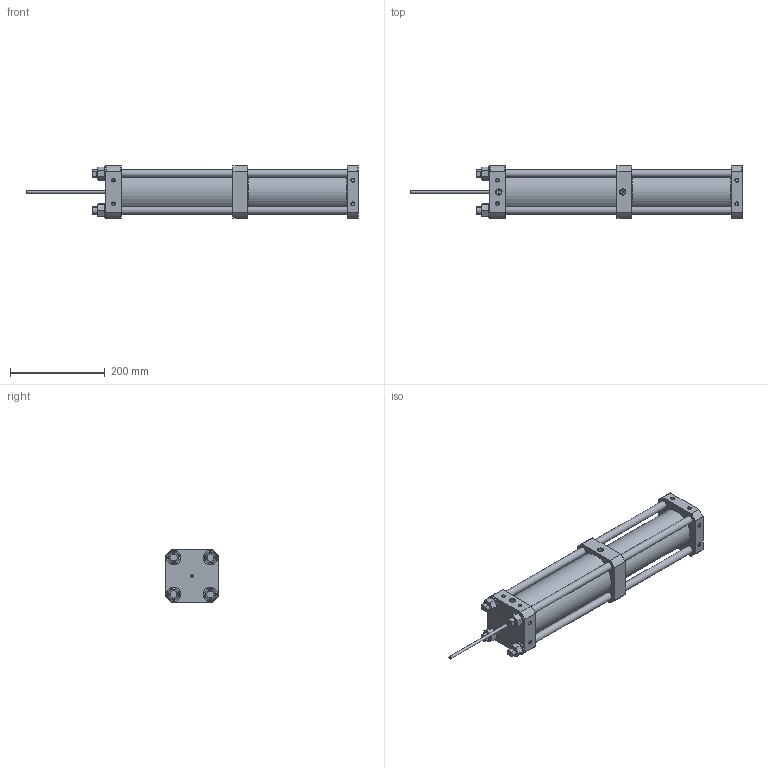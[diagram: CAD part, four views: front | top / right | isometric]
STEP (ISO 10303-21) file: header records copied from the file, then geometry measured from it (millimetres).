
FILE_DESCRIPTION(/* description */ (''),/* implementation_level */ '2;1');
FILE_NAME(/* name */ 'H32.4000.stp',/* time_stamp */ '2026-04-24T11:43:50+02:00',/* author */ ('janos'),/* organization */ (''),/* preprocessor_version */ 'ST-DEVELOPER v19.2',/* originating_system */ 'Autodesk Inventor 2024',/* authorisation */ '');
FILE_SCHEMA (('AUTOMOTIVE_DESIGN { 1 0 10303 214 3 1 1 }'));
Length unit declared in the file: millimetre
Products named in the file (1): HDÜ.BG.4000.32.1_Vereinfachen_1
Bounding box: 702 x 110 x 110 mm (x, y, z)
Volume: 4013948.3 mm3; surface area: 324552.7 mm2
Topology: 1 solids, 1 shells, 227 faces, 577 edges, 365 vertices
Faces by surface type: cone 86, plane 85, cylinder 55, torus 1
Full cylindrical faces by diameter (mm): 6 x1, 6.647 x16, 7 x2, 11.445 x2, 14.376 x1, 16 x8, 17 x4, 30 x4, 45 x1, 79 x1, 92 x1
Entity records: 6836 total; most frequent: CARTESIAN_POINT 1452, DIRECTION 1143, ORIENTED_EDGE 1122, EDGE_CURVE 561, AXIS2_PLACEMENT_3D 464, VERTEX_POINT 365, EDGE_LOOP 276, CIRCLE 236
